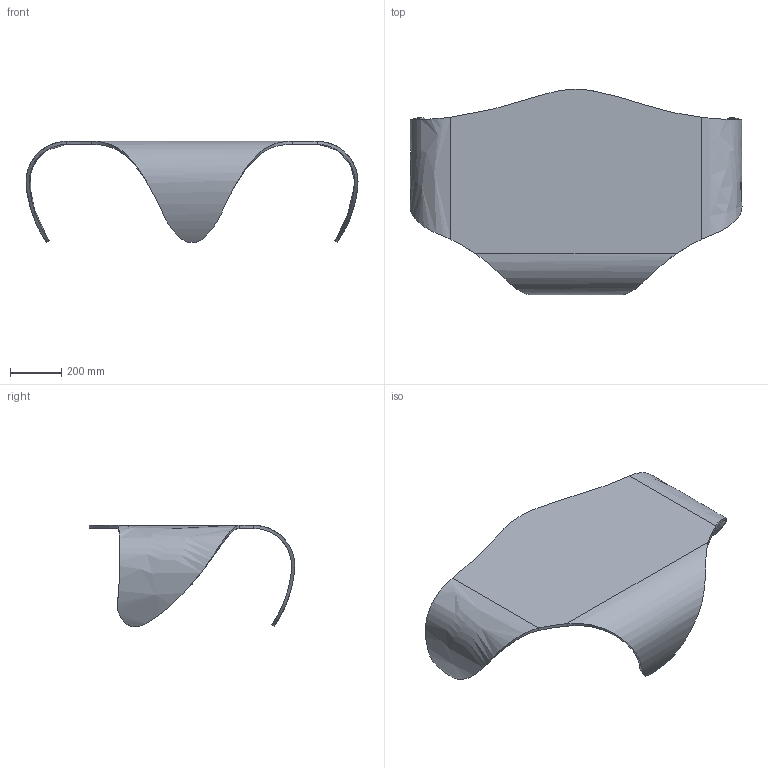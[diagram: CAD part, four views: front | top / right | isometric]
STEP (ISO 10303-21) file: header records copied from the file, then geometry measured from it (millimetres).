
FILE_DESCRIPTION(/* description */ (''),/* implementation_level */ '2;1');
FILE_NAME(/* name */ '043 - Manta 130x80',/* time_stamp */ '2010-11-03T17:59:48+01:00',/* author */ (''),/* organization */ (''),/* preprocessor_version */ 'ST-DEVELOPER v10',/* originating_system */ '',/* authorisation */ '');
FILE_SCHEMA (('CONFIG_CONTROL_DESIGN'));
Length unit declared in the file: centimetre
Products named in the file (1): 1
Bounding box: 1299.98 x 804.95 x 396.78 mm (x, y, z)
Volume: 12882368.8 mm3; surface area: 2198285 mm2
Topology: 1 solids, 1 shells, 27 faces, 63 edges, 38 vertices
Faces by surface type: bspline 25, plane 2
Entity records: 1828 total; most frequent: CARTESIAN_POINT 1364, ORIENTED_EDGE 126, EDGE_CURVE 63, B_SPLINE_CURVE_WITH_KNOTS 45, VERTEX_POINT 38, ADVANCED_FACE 27, FACE_OUTER_BOUND 27, EDGE_LOOP 27
